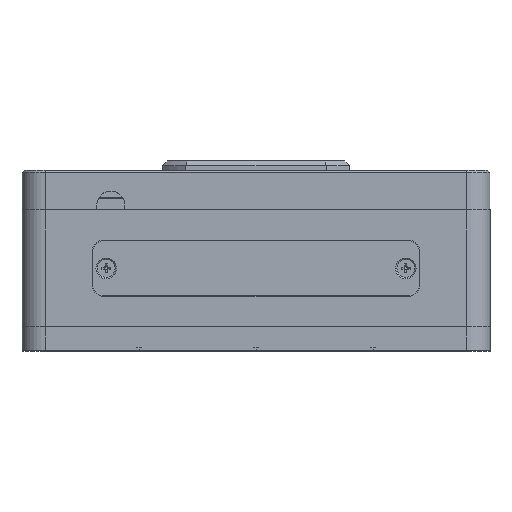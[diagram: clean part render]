
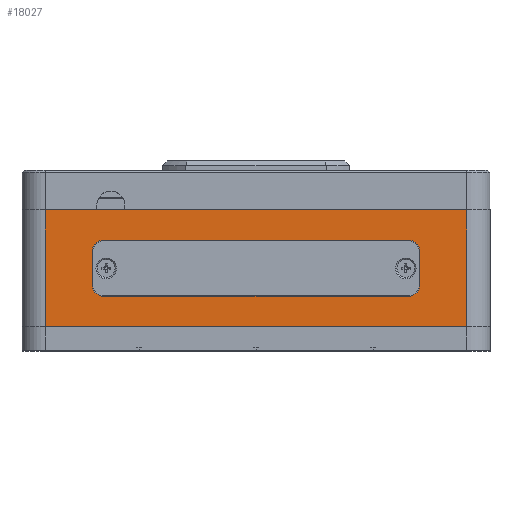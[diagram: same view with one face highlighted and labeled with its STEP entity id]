
A CAD part, top view. The second image highlights one B-rep face of the part: STEP entity #18027.
In plain terms, the highlighted planar face has unit normal (0, 0, 1).
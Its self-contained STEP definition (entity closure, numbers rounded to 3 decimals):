
#116 = DIRECTION ( 'NONE',  ( 0., -1., 0. ) ) ;
#146 = VERTEX_POINT ( 'NONE', #9653 ) ;
#1607 = CARTESIAN_POINT ( 'NONE',  ( -45., -12.5, 50. ) ) ;
#1633 = EDGE_CURVE ( 'NONE', #19143, #4329, #5309, .T. ) ;
#2278 = VERTEX_POINT ( 'NONE', #15597 ) ;
#2384 = ORIENTED_EDGE ( 'NONE', *, *, #21515, .F. ) ;
#2507 = EDGE_CURVE ( 'NONE', #11611, #8716, #4308, .T. ) ;
#2537 = DIRECTION ( 'NONE',  ( 0., -1., 0. ) ) ;
#2998 = CARTESIAN_POINT ( 'NONE',  ( 35., -3.5, 50. ) ) ;
#3100 = AXIS2_PLACEMENT_3D ( 'NONE', #21502, #10091, #23444 ) ;
#3394 = AXIS2_PLACEMENT_3D ( 'NONE', #11069, #24408, #12993 ) ;
#3828 = CARTESIAN_POINT ( 'NONE',  ( -45., 12.5, 50. ) ) ;
#4003 = CARTESIAN_POINT ( 'NONE',  ( -50., 12.5, 50. ) ) ;
#4308 = LINE ( 'NONE', #9444, #23976 ) ;
#4329 = VERTEX_POINT ( 'NONE', #1607 ) ;
#4464 = CARTESIAN_POINT ( 'NONE',  ( -35., 3.5, 50. ) ) ;
#4510 = VECTOR ( 'NONE', #2537, 1000. ) ;
#4925 = ORIENTED_EDGE ( 'NONE', *, *, #1633, .T. ) ;
#4982 = EDGE_CURVE ( 'NONE', #19143, #21525, #13879, .T. ) ;
#5040 = CARTESIAN_POINT ( 'NONE',  ( 35., 3.5, 50. ) ) ;
#5196 = DIRECTION ( 'NONE',  ( 0., 0., 1. ) ) ;
#5221 = DIRECTION ( 'NONE',  ( 0., 0., 1. ) ) ;
#5309 = LINE ( 'NONE', #3828, #10359 ) ;
#5739 = ORIENTED_EDGE ( 'NONE', *, *, #18786, .F. ) ;
#5745 = CIRCLE ( 'NONE', #19937, 2.5 ) ;
#5756 = EDGE_CURVE ( 'NONE', #12856, #21525, #8442, .T. ) ;
#5923 = DIRECTION ( 'NONE',  ( -1., 0., 0. ) ) ;
#5979 = AXIS2_PLACEMENT_3D ( 'NONE', #16590, #5221, #18499 ) ;
#6114 = LINE ( 'NONE', #16626, #20682 ) ;
#6307 = EDGE_CURVE ( 'NONE', #11930, #6312, #18186, .T. ) ;
#6312 = VERTEX_POINT ( 'NONE', #6624 ) ;
#6410 = CARTESIAN_POINT ( 'NONE',  ( 45., 12.5, 50. ) ) ;
#6536 = DIRECTION ( 'NONE',  ( 0., 1., 0. ) ) ;
#6624 = CARTESIAN_POINT ( 'NONE',  ( 35., 3.5, 50. ) ) ;
#6736 = CIRCLE ( 'NONE', #3100, 2.5 ) ;
#7961 = VECTOR ( 'NONE', #21255, 1000. ) ;
#8168 = CARTESIAN_POINT ( 'NONE',  ( -35., 3.5, 50. ) ) ;
#8261 = VERTEX_POINT ( 'NONE', #18122 ) ;
#8442 = LINE ( 'NONE', #6410, #17949 ) ;
#8716 = VERTEX_POINT ( 'NONE', #21278 ) ;
#8801 = VECTOR ( 'NONE', #15476, 1000. ) ;
#9012 = CARTESIAN_POINT ( 'NONE',  ( 45., 12.5, 50. ) ) ;
#9023 = ORIENTED_EDGE ( 'NONE', *, *, #18914, .F. ) ;
#9079 = DIRECTION ( 'NONE',  ( 1., 0., 0. ) ) ;
#9137 = LINE ( 'NONE', #9841, #7961 ) ;
#9444 = CARTESIAN_POINT ( 'NONE',  ( -32.5, 6., 50. ) ) ;
#9558 = LINE ( 'NONE', #4464, #4510 ) ;
#9653 = CARTESIAN_POINT ( 'NONE',  ( -35., -3.5, 50. ) ) ;
#9841 = CARTESIAN_POINT ( 'NONE',  ( -50., -12.5, 50. ) ) ;
#10091 = DIRECTION ( 'NONE',  ( 0., 0., 1. ) ) ;
#10359 = VECTOR ( 'NONE', #116, 1000. ) ;
#10384 = FACE_BOUND ( 'NONE', #11510, .T. ) ;
#11069 = CARTESIAN_POINT ( 'NONE',  ( -32.5, -3.5, 50. ) ) ;
#11208 = EDGE_CURVE ( 'NONE', #4329, #12856, #9137, .T. ) ;
#11457 = CARTESIAN_POINT ( 'NONE',  ( -45., 12.5, 50. ) ) ;
#11510 = EDGE_LOOP ( 'NONE', ( #16468, #21507, #12123, #9023, #14734, #20824, #5739, #2384 ) ) ;
#11611 = VERTEX_POINT ( 'NONE', #16885 ) ;
#11805 = EDGE_LOOP ( 'NONE', ( #19417, #15561, #19878, #4925 ) ) ;
#11930 = VERTEX_POINT ( 'NONE', #2998 ) ;
#12123 = ORIENTED_EDGE ( 'NONE', *, *, #6307, .F. ) ;
#12856 = VERTEX_POINT ( 'NONE', #19575 ) ;
#12993 = DIRECTION ( 'NONE',  ( 1., 0., 0. ) ) ;
#13879 = LINE ( 'NONE', #17545, #8801 ) ;
#14337 = CIRCLE ( 'NONE', #5979, 2.5 ) ;
#14734 = ORIENTED_EDGE ( 'NONE', *, *, #23517, .F. ) ;
#14862 = FACE_OUTER_BOUND ( 'NONE', #11805, .T. ) ;
#15476 = DIRECTION ( 'NONE',  ( 1., 0., 0. ) ) ;
#15561 = ORIENTED_EDGE ( 'NONE', *, *, #5756, .T. ) ;
#15597 = CARTESIAN_POINT ( 'NONE',  ( 32.5, -6., 50. ) ) ;
#15617 = EDGE_CURVE ( 'NONE', #146, #8261, #24342, .T. ) ;
#15665 = DIRECTION ( 'NONE',  ( -1., 0., 0. ) ) ;
#16267 = EDGE_CURVE ( 'NONE', #6312, #11611, #6736, .T. ) ;
#16468 = ORIENTED_EDGE ( 'NONE', *, *, #2507, .F. ) ;
#16564 = CARTESIAN_POINT ( 'NONE',  ( -32.5, 3.5, 50. ) ) ;
#16590 = CARTESIAN_POINT ( 'NONE',  ( 32.5, -3.5, 50. ) ) ;
#16626 = CARTESIAN_POINT ( 'NONE',  ( -32.5, -6., 50. ) ) ;
#16885 = CARTESIAN_POINT ( 'NONE',  ( 32.5, 6., 50. ) ) ;
#17291 = DIRECTION ( 'NONE',  ( 0., 0., -1. ) ) ;
#17545 = CARTESIAN_POINT ( 'NONE',  ( -50., 12.5, 50. ) ) ;
#17949 = VECTOR ( 'NONE', #19865, 1000. ) ;
#18027 = ADVANCED_FACE ( 'NONE', ( #10384, #14862 ), #21061, .F. ) ;
#18122 = CARTESIAN_POINT ( 'NONE',  ( -32.5, -6., 50. ) ) ;
#18186 = LINE ( 'NONE', #5040, #22683 ) ;
#18478 = DIRECTION ( 'NONE',  ( 1., 0., 0. ) ) ;
#18499 = DIRECTION ( 'NONE',  ( 1., 0., 0. ) ) ;
#18515 = AXIS2_PLACEMENT_3D ( 'NONE', #4003, #17291, #5923 ) ;
#18786 = EDGE_CURVE ( 'NONE', #21715, #146, #9558, .T. ) ;
#18914 = EDGE_CURVE ( 'NONE', #2278, #11930, #14337, .T. ) ;
#19143 = VERTEX_POINT ( 'NONE', #11457 ) ;
#19417 = ORIENTED_EDGE ( 'NONE', *, *, #11208, .T. ) ;
#19575 = CARTESIAN_POINT ( 'NONE',  ( 45., -12.5, 50. ) ) ;
#19865 = DIRECTION ( 'NONE',  ( 0., 1., 0. ) ) ;
#19878 = ORIENTED_EDGE ( 'NONE', *, *, #4982, .F. ) ;
#19937 = AXIS2_PLACEMENT_3D ( 'NONE', #16564, #5196, #18478 ) ;
#20682 = VECTOR ( 'NONE', #9079, 1000. ) ;
#20824 = ORIENTED_EDGE ( 'NONE', *, *, #15617, .F. ) ;
#21061 = PLANE ( 'NONE',  #18515 ) ;
#21255 = DIRECTION ( 'NONE',  ( 1., 0., 0. ) ) ;
#21278 = CARTESIAN_POINT ( 'NONE',  ( -32.5, 6., 50. ) ) ;
#21502 = CARTESIAN_POINT ( 'NONE',  ( 32.5, 3.5, 50. ) ) ;
#21507 = ORIENTED_EDGE ( 'NONE', *, *, #16267, .F. ) ;
#21515 = EDGE_CURVE ( 'NONE', #8716, #21715, #5745, .T. ) ;
#21525 = VERTEX_POINT ( 'NONE', #9012 ) ;
#21715 = VERTEX_POINT ( 'NONE', #8168 ) ;
#22683 = VECTOR ( 'NONE', #6536, 1000. ) ;
#23444 = DIRECTION ( 'NONE',  ( -1., 0., 0. ) ) ;
#23517 = EDGE_CURVE ( 'NONE', #8261, #2278, #6114, .T. ) ;
#23976 = VECTOR ( 'NONE', #15665, 1000. ) ;
#24342 = CIRCLE ( 'NONE', #3394, 2.5 ) ;
#24408 = DIRECTION ( 'NONE',  ( 0., 0., 1. ) ) ;
